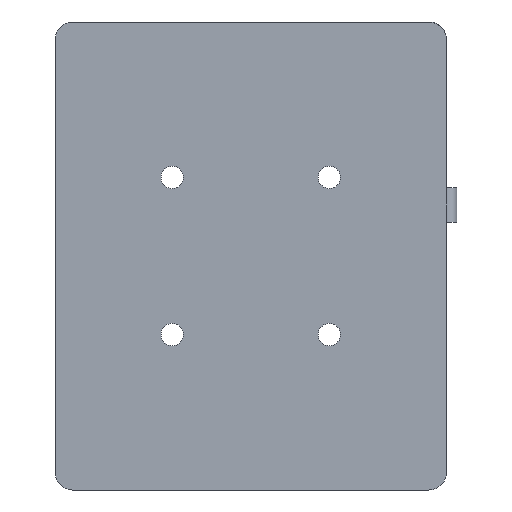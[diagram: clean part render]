
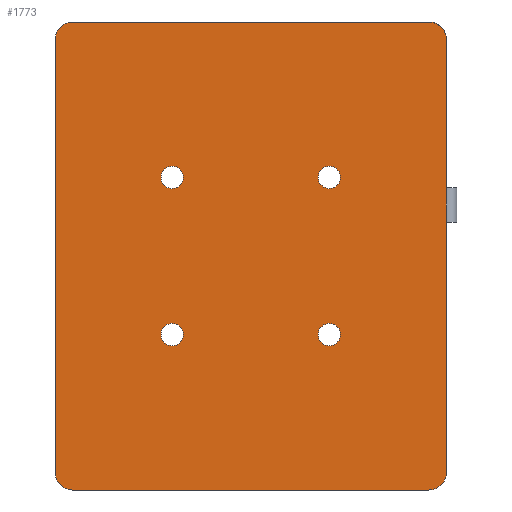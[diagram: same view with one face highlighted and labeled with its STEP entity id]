
A CAD part, front view. The second image highlights one B-rep face of the part: STEP entity #1773.
In plain terms, the highlighted planar face has unit normal (0, -1, 0).
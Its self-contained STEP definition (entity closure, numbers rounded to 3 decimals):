
#46=FACE_BOUND('',#347,.T.);
#47=FACE_BOUND('',#348,.T.);
#48=FACE_BOUND('',#349,.T.);
#49=FACE_BOUND('',#350,.T.);
#96=CIRCLE('',#1902,2.5);
#97=CIRCLE('',#1903,2.5);
#98=CIRCLE('',#1904,2.5);
#99=CIRCLE('',#1905,2.5);
#100=CIRCLE('',#1906,1.6);
#101=CIRCLE('',#1907,1.6);
#102=CIRCLE('',#1908,1.6);
#103=CIRCLE('',#1909,1.6);
#231=FACE_OUTER_BOUND('',#346,.T.);
#346=EDGE_LOOP('',(#1300,#1301,#1302,#1303,#1304,#1305,#1306,#1307,#1308,
#1309));
#347=EDGE_LOOP('',(#1310));
#348=EDGE_LOOP('',(#1311));
#349=EDGE_LOOP('',(#1312));
#350=EDGE_LOOP('',(#1313));
#488=LINE('',#2695,#638);
#506=LINE('',#2775,#656);
#507=LINE('',#2779,#657);
#508=LINE('',#2783,#658);
#509=LINE('',#2787,#659);
#510=LINE('',#2790,#660);
#638=VECTOR('',#2135,10.);
#656=VECTOR('',#2189,10.);
#657=VECTOR('',#2192,10.);
#658=VECTOR('',#2195,10.);
#659=VECTOR('',#2198,10.);
#660=VECTOR('',#2201,10.);
#787=VERTEX_POINT('',#2679);
#793=VERTEX_POINT('',#2693);
#812=VERTEX_POINT('',#2774);
#813=VERTEX_POINT('',#2776);
#814=VERTEX_POINT('',#2778);
#815=VERTEX_POINT('',#2780);
#816=VERTEX_POINT('',#2782);
#817=VERTEX_POINT('',#2784);
#818=VERTEX_POINT('',#2786);
#819=VERTEX_POINT('',#2788);
#820=VERTEX_POINT('',#2791);
#821=VERTEX_POINT('',#2793);
#822=VERTEX_POINT('',#2795);
#823=VERTEX_POINT('',#2797);
#972=EDGE_CURVE('',#793,#787,#488,.T.);
#1000=EDGE_CURVE('',#812,#793,#506,.T.);
#1001=EDGE_CURVE('',#813,#812,#96,.T.);
#1002=EDGE_CURVE('',#814,#813,#507,.T.);
#1003=EDGE_CURVE('',#815,#814,#97,.T.);
#1004=EDGE_CURVE('',#816,#815,#508,.T.);
#1005=EDGE_CURVE('',#817,#816,#98,.T.);
#1006=EDGE_CURVE('',#818,#817,#509,.T.);
#1007=EDGE_CURVE('',#819,#818,#99,.T.);
#1008=EDGE_CURVE('',#787,#819,#510,.T.);
#1009=EDGE_CURVE('',#820,#820,#100,.T.);
#1010=EDGE_CURVE('',#821,#821,#101,.T.);
#1011=EDGE_CURVE('',#822,#822,#102,.T.);
#1012=EDGE_CURVE('',#823,#823,#103,.T.);
#1300=ORIENTED_EDGE('',*,*,#972,.F.);
#1301=ORIENTED_EDGE('',*,*,#1000,.F.);
#1302=ORIENTED_EDGE('',*,*,#1001,.F.);
#1303=ORIENTED_EDGE('',*,*,#1002,.F.);
#1304=ORIENTED_EDGE('',*,*,#1003,.F.);
#1305=ORIENTED_EDGE('',*,*,#1004,.F.);
#1306=ORIENTED_EDGE('',*,*,#1005,.F.);
#1307=ORIENTED_EDGE('',*,*,#1006,.F.);
#1308=ORIENTED_EDGE('',*,*,#1007,.F.);
#1309=ORIENTED_EDGE('',*,*,#1008,.F.);
#1310=ORIENTED_EDGE('',*,*,#1009,.F.);
#1311=ORIENTED_EDGE('',*,*,#1010,.F.);
#1312=ORIENTED_EDGE('',*,*,#1011,.F.);
#1313=ORIENTED_EDGE('',*,*,#1012,.F.);
#1712=PLANE('',#1901);
#1773=ADVANCED_FACE('',(#231,#46,#47,#48,#49),#1712,.F.);
#1901=AXIS2_PLACEMENT_3D('',#2773,#2187,#2188);
#1902=AXIS2_PLACEMENT_3D('',#2777,#2190,#2191);
#1903=AXIS2_PLACEMENT_3D('',#2781,#2193,#2194);
#1904=AXIS2_PLACEMENT_3D('',#2785,#2196,#2197);
#1905=AXIS2_PLACEMENT_3D('',#2789,#2199,#2200);
#1906=AXIS2_PLACEMENT_3D('',#2792,#2202,#2203);
#1907=AXIS2_PLACEMENT_3D('',#2794,#2204,#2205);
#1908=AXIS2_PLACEMENT_3D('',#2796,#2206,#2207);
#1909=AXIS2_PLACEMENT_3D('',#2798,#2208,#2209);
#2135=DIRECTION('',(0.,0.,-1.));
#2187=DIRECTION('center_axis',(0.,1.,0.));
#2188=DIRECTION('ref_axis',(1.,0.,0.));
#2189=DIRECTION('',(0.,0.,-1.));
#2190=DIRECTION('center_axis',(0.,1.,0.));
#2191=DIRECTION('ref_axis',(0.707,0.,0.707));
#2192=DIRECTION('',(1.,0.,0.));
#2193=DIRECTION('center_axis',(0.,1.,0.));
#2194=DIRECTION('ref_axis',(-0.707,0.,0.707));
#2195=DIRECTION('',(0.,0.,1.));
#2196=DIRECTION('center_axis',(0.,1.,0.));
#2197=DIRECTION('ref_axis',(-0.707,0.,-0.707));
#2198=DIRECTION('',(-1.,0.,0.));
#2199=DIRECTION('center_axis',(0.,1.,0.));
#2200=DIRECTION('ref_axis',(0.707,0.,-0.707));
#2201=DIRECTION('',(0.,0.,-1.));
#2202=DIRECTION('center_axis',(0.,-1.,0.));
#2203=DIRECTION('ref_axis',(1.,0.,0.));
#2204=DIRECTION('center_axis',(0.,-1.,0.));
#2205=DIRECTION('ref_axis',(1.,0.,0.));
#2206=DIRECTION('center_axis',(0.,-1.,0.));
#2207=DIRECTION('ref_axis',(1.,0.,0.));
#2208=DIRECTION('center_axis',(0.,-1.,0.));
#2209=DIRECTION('ref_axis',(1.,0.,0.));
#2679=CARTESIAN_POINT('',(28.,0.,4.8));
#2693=CARTESIAN_POINT('',(28.,0.,9.8));
#2695=CARTESIAN_POINT('',(28.,0.,3.65));
#2773=CARTESIAN_POINT('Origin',(-22.5,0.,0.));
#2774=CARTESIAN_POINT('',(28.,0.,31.));
#2775=CARTESIAN_POINT('',(28.,0.,33.5));
#2776=CARTESIAN_POINT('',(25.5,0.,33.5));
#2777=CARTESIAN_POINT('Origin',(25.5,0.,31.));
#2778=CARTESIAN_POINT('',(-25.5,0.,33.5));
#2779=CARTESIAN_POINT('',(-28.,0.,33.5));
#2780=CARTESIAN_POINT('',(-28.,0.,31.));
#2781=CARTESIAN_POINT('Origin',(-25.5,0.,31.));
#2782=CARTESIAN_POINT('',(-28.,0.,-31.));
#2783=CARTESIAN_POINT('',(-28.,0.,-33.5));
#2784=CARTESIAN_POINT('',(-25.5,0.,-33.5));
#2785=CARTESIAN_POINT('Origin',(-25.5,0.,-31.));
#2786=CARTESIAN_POINT('',(25.5,0.,-33.5));
#2787=CARTESIAN_POINT('',(28.,0.,-33.5));
#2788=CARTESIAN_POINT('',(28.,0.,-31.));
#2789=CARTESIAN_POINT('Origin',(25.5,0.,-31.));
#2790=CARTESIAN_POINT('',(28.,0.,33.5));
#2791=CARTESIAN_POINT('',(-12.85,0.,11.25));
#2792=CARTESIAN_POINT('Origin',(-11.25,0.,11.25));
#2793=CARTESIAN_POINT('',(9.65,0.,11.25));
#2794=CARTESIAN_POINT('Origin',(11.25,0.,11.25));
#2795=CARTESIAN_POINT('',(-12.85,0.,-11.25));
#2796=CARTESIAN_POINT('Origin',(-11.25,0.,-11.25));
#2797=CARTESIAN_POINT('',(9.65,0.,-11.25));
#2798=CARTESIAN_POINT('Origin',(11.25,0.,-11.25));
